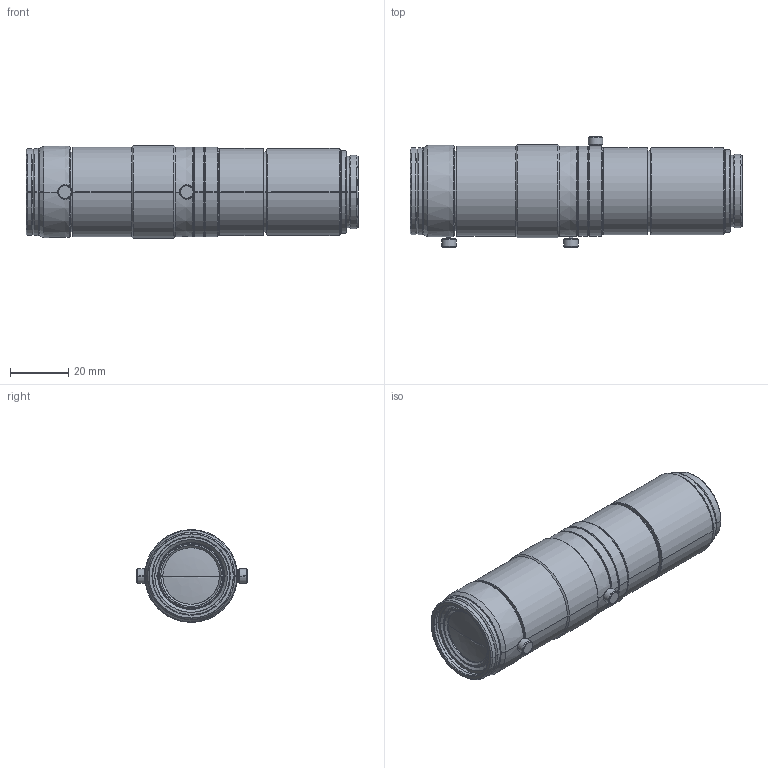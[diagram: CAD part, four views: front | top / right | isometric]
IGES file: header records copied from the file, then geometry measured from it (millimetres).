
Start section: SolidWorks IGES file using analytic representation for surfaces
Global section: file name: \\192.168.200.11\Development\3 製品\1 標準品\04 ズームレンズ\01 8x (VSZ-M0108S VSZ-M0324S)\VSZ-M0108S\10.3D外観モデル\VSZ-M0108S.IGS; native system: SolidWorks 2020; preprocessor: SolidWorks 2020; author: sugiyama_vst; date: 200817.160303; units: millimetre
Bounding box: 114.4 x 38.2 x 32 mm (x, y, z)
Surface area: 15305 mm2 (no closed solid volume)
Topology: 0 solids, 0 shells, 170 faces, 3192 edges, 3191 vertices
Faces by surface type: revolution 142, bspline 28
